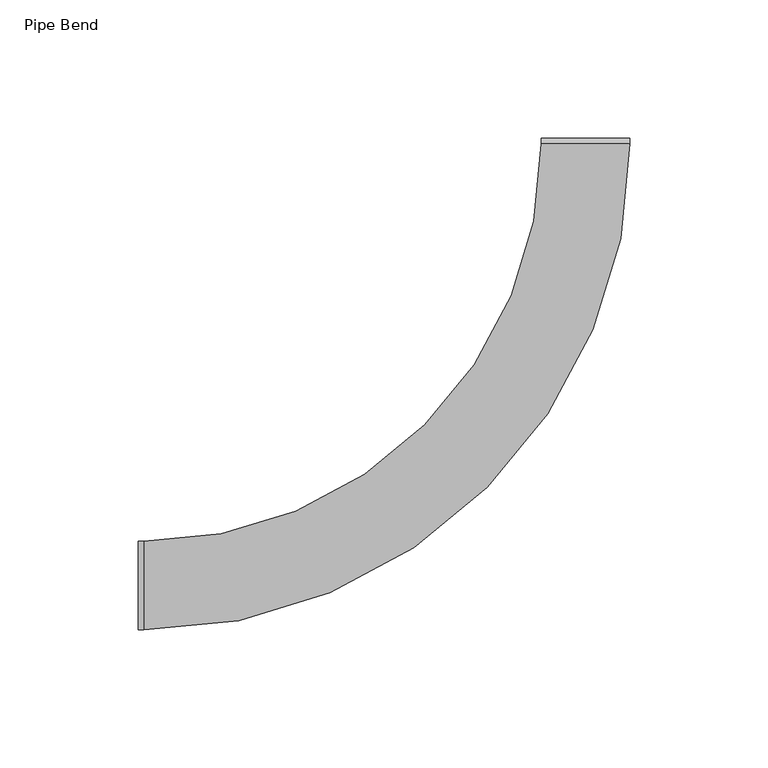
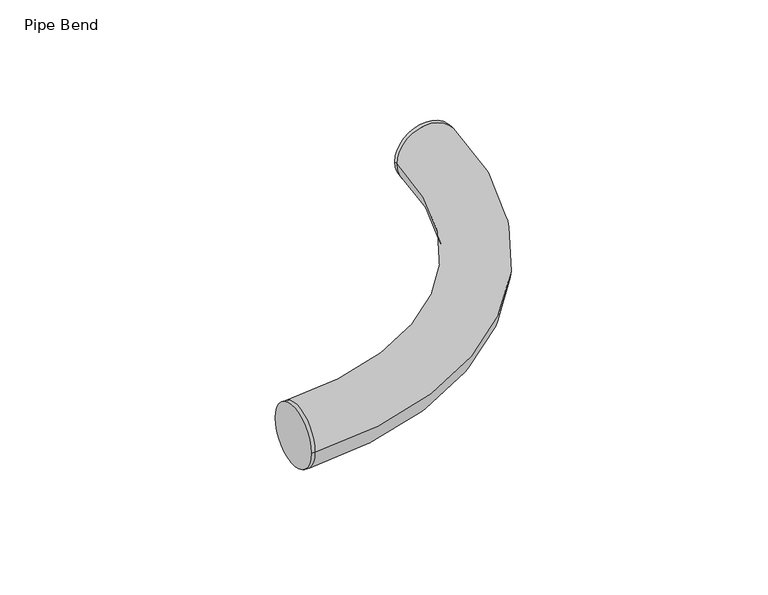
"""IFC4 building model written with IfcOpenShell, lengths in millimetres: pipe fitting geometry, Pipe Bend : Superpipe 2+ Pipe bend."""

from ifc_helpers import new_model, si_unit, point, frame, origin, place, context, project, spatial, circle_curve, ellipse_curve, trimmed, source, transform, mapped, element, save
from ifc_brep_helpers import plane_surface, cylinder_surface, revolved_surface, advanced_brep


def pipe_bend_fe3f6248(model_context):
    return source(origin(), model_context, "Body", "AdvancedBrep", [
        advanced_brep(
        [(-162.0, -16.0, 0.0), (-162.0, 16.0, 0.0), (-160.0, -16.0, 0.0), (-160.0, 16.0, 0.0), (-16.0, 160.0, 0.0), (16.0, 160.0, 0.0), (0.0, 160.0, 16.0), (0.0, 160.0, -16.0), (16.0, 162.0, 0.0), (-16.0, 162.0, 0.0)],
        [
            (0, 1, circle_curve(frame((-162.0, 0.0, 0.0), z_axis=(-1.0, 0.0, 0.0), x_axis=(0.0, 1.0, 0.0)), 16.0)),
            (1, 0, circle_curve(frame((-162.0, 0.0, 0.0), z_axis=(-1.0, 0.0, 0.0), x_axis=(0.0, 1.0, 0.0)), 16.0)),
            (0, 2),
            (2, 3, circle_curve(frame((-160.0, 0.0, 0.0), z_axis=(-1.0, 0.0, 0.0), x_axis=(0.0, 1.0, 0.0)), 16.0)),
            (3, 1),
            (3, 2, circle_curve(frame((-160.0, 0.0, 0.0), z_axis=(-1.0, 0.0, 0.0), x_axis=(0.0, 1.0, 0.0)), 16.0)),
            (4, 3, circle_curve(frame((-160.0, 160.0, 0.0), z_axis=(0.0, 0.0, -1.0), x_axis=(0.0, -1.0, 0.0)), 144.0)),
            (2, 5, circle_curve(frame((-160.0, 160.0, 0.0), z_axis=(0.0, 0.0, 1.0), x_axis=(0.0, -1.0, 0.0)), 176.0)),
            (5, 6, circle_curve(frame((0.0, 160.0, 0.0), z_axis=(0.0, -1.0, 0.0), x_axis=(-1.0, 0.0, 0.0)), 16.0)),
            (6, 4, circle_curve(frame((0.0, 160.0, 0.0), z_axis=(0.0, -1.0, 0.0), x_axis=(-1.0, 0.0, 0.0)), 16.0)),
            (4, 7, circle_curve(frame((0.0, 160.0, 0.0), z_axis=(0.0, -1.0, 0.0), x_axis=(-1.0, 0.0, 0.0)), 16.0)),
            (7, 5, circle_curve(frame((0.0, 160.0, 0.0), z_axis=(0.0, -1.0, 0.0), x_axis=(-1.0, 0.0, 0.0)), 16.0)),
            (8, 9, circle_curve(frame((0.0, 162.0, 0.0), z_axis=(0.0, 1.0, 0.0), x_axis=(-1.0, 0.0, 0.0)), 16.0)),
            (9, 8, circle_curve(frame((0.0, 162.0, 0.0), z_axis=(0.0, 1.0, 0.0), x_axis=(-1.0, 0.0, 0.0)), 16.0)),
            (9, 4),
            (5, 8),
        ],
        [
            plane_surface(frame((-162.0, 0.0, 0.0), z_axis=(-1.0, 0.0, 0.0), x_axis=(0.0, 0.0, 1.0))),
            cylinder_surface(frame((-162.0, 0.0, 0.0), z_axis=(-1.0, 0.0, 0.0), x_axis=(0.0, 1.0, 0.0)), 16.0),
            revolved_surface(trimmed(ellipse_curve(frame((-160.0, 0.0, 0.0), z_axis=(-1.0, 0.0, 0.0), x_axis=(0.0, 1.0, 0.0)), 16.0, 16.0), [point((-160.0, -16.0, 0.0))], [point((-160.0, 16.0, 0.0))], True, "CARTESIAN"), (-160.0, 160.0, 0.0), (0.0, 0.0, 1.0)),
            revolved_surface(trimmed(ellipse_curve(frame((-160.0, 0.0, 0.0), z_axis=(-1.0, 0.0, 0.0), x_axis=(0.0, 1.0, 0.0)), 16.0, 16.0), [point((-160.0, 16.0, 0.0))], [point((-160.0, -16.0, 0.0))], True, "CARTESIAN"), (-160.0, 160.0, 0.0), (0.0, 0.0, 1.0)),
            plane_surface(frame((0.0, 162.0, 0.0), z_axis=(0.0, 1.0, 0.0), x_axis=(0.0, 0.0, 1.0))),
            cylinder_surface(frame((0.0, 160.0, 0.0), z_axis=(0.0, -1.0, 0.0), x_axis=(-1.0, 0.0, 0.0)), 16.0),
        ],
        [
            (0, [[1, 2]]),
            (1, [[-1, 3, 4, 5]]),
            (1, [[-2, -5, 6, -3]]),
            (2, [[7, -4, 8, 9, 10]]),
            (3, [[-7, 11, 12, -8, -6]]),
            (4, [[13, 14]]),
            (5, [[-14, 15, -10, -9, 16]]),
            (5, [[-13, -16, -12, -11, -15]]),
        ],
    ),
    ])


if __name__ == "__main__":
    model = new_model("IFC4")
    model_context = context("Model", 3, world=origin())
    ifc_project = project(units=[si_unit("LENGTHUNIT", "METRE", prefix="MILLI")], contexts=[model_context])
    site = spatial("IfcSite", under=ifc_project)
    building = spatial("IfcBuilding", under=site)
    placement = place(None, origin())
    pipe_bend_shape = pipe_bend_fe3f6248(model_context)
    element("IfcPipeFitting", 1, ObjectType="Pipe Bend : Superpipe 2+ Pipe bend", at=placement, inside=building, context=model_context, shape_type="MappedRepresentation", body=[
        mapped(pipe_bend_shape, transform((0.0, 0.0, 0.0), x_axis=(1.0, 0.0, 0.0), y_axis=(0.0, 1.0, 0.0), z_axis=(0.0, 0.0, 1.0))),
    ])
    save(model, "model.ifc")
